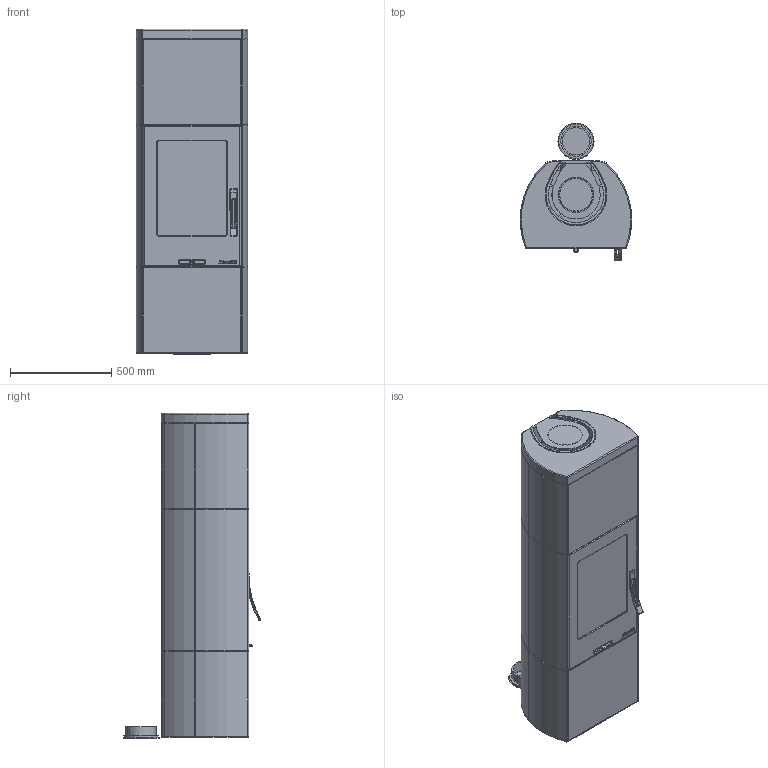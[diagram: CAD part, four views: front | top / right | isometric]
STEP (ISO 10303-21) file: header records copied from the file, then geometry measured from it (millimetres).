
FILE_DESCRIPTION( ( 'Unknown' ), '1' );
FILE_NAME( 'C:/Documents and Settings/haandersr/Application Data/Unigraphics Solutions/Solid Edge/Insight/insight/Insight/interior models/H34T Assembly Soapstone Top.stp', 'Unknown', ( 'Unknown' ), ( 'Unknown' ), 'PSStep 10.1', 'Unknown', ' ' );
FILE_SCHEMA( ( 'AUTOMOTIVE_DESIGN { 1 0 10303 214 1 1 1 1 }' ) );
Length unit declared in the file: millimetre
Products named in the file (17): Assem1; Foot H34T; Glass H30; Connection; Lid; Vermiculite H30; Rear H34T; Fire H30; Inside Shielding H34; Bottom Cast Iron H30; Insert H30; Rear Lid H34 H35; Lattice H34 H35; Lid Lattice H34 H35; Soapstone Set H34T
Bounding box: 549.63 x 679.26 x 1607 mm (x, y, z)
Volume: 511726913.8 mm3; surface area: 22535361.2 mm2
Topology: 34 solids, 34 shells, 4055 faces, 10023 edges, 6093 vertices
Faces by surface type: plane 1497, cylinder 1166, bspline 576, torus 308, extrusion 270, sphere 130, cone 108
Full cylindrical faces by diameter (mm): 2.382 x12, 65 x2, 118 x2, 120 x2, 134 x3, 150 x3, 160 x2, 168 x2, 170 x7, 175 x2, 178 x3, 180 x2
Entity records: 107532 total; most frequent: CARTESIAN_POINT 46064, ORIENTED_EDGE 9796, DIRECTION 8741, EDGE_CURVE 4898, AXIS2_PLACEMENT_3D 3242, VERTEX_POINT 3013, VECTOR 2257, EDGE_LOOP 2163
